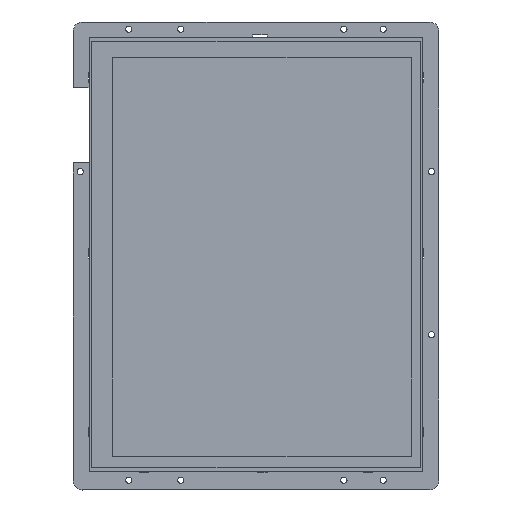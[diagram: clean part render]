
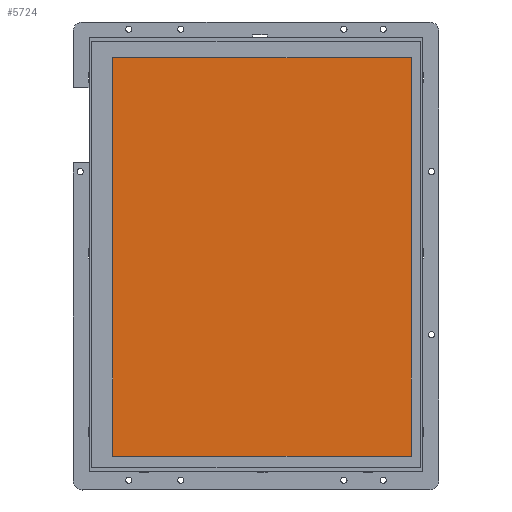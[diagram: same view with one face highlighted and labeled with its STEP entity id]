
A CAD part, top view. The second image highlights one B-rep face of the part: STEP entity #5724.
In plain terms, the highlighted planar face has unit normal (0, 0, 1).
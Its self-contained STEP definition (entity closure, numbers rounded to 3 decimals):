
#1793=DIRECTION('',(0.,-1.,0.));
#1794=VECTOR('',#1793,211.);
#1795=CARTESIAN_POINT('',(-75.96,104.339,11.35));
#1796=LINE('',#1795,#1794);
#1797=DIRECTION('',(-1.,0.,0.));
#1798=VECTOR('',#1797,158.2);
#1799=CARTESIAN_POINT('',(82.241,104.339,11.35));
#1800=LINE('',#1799,#1798);
#1801=DIRECTION('',(0.,1.,0.));
#1802=VECTOR('',#1801,211.);
#1803=CARTESIAN_POINT('',(82.241,-106.661,11.35));
#1804=LINE('',#1803,#1802);
#1805=DIRECTION('',(1.,0.,0.));
#1806=VECTOR('',#1805,158.2);
#1807=CARTESIAN_POINT('',(-75.96,-106.661,11.35));
#1808=LINE('',#1807,#1806);
#3101=CARTESIAN_POINT('',(-75.96,104.339,11.35));
#3102=CARTESIAN_POINT('',(-75.96,-106.661,11.35));
#3103=VERTEX_POINT('',#3101);
#3104=VERTEX_POINT('',#3102);
#3105=CARTESIAN_POINT('',(82.241,-106.661,11.35));
#3106=VERTEX_POINT('',#3105);
#3107=CARTESIAN_POINT('',(82.241,104.339,11.35));
#3108=VERTEX_POINT('',#3107);
#5713=CARTESIAN_POINT('',(3.141,-1.161,11.35));
#5714=DIRECTION('',(0.,0.,1.));
#5715=DIRECTION('',(-1.,0.,0.));
#5716=AXIS2_PLACEMENT_3D('',#5713,#5714,#5715);
#5717=PLANE('',#5716);
#5718=ORIENTED_EDGE('',*,*,#5665,.F.);
#5719=ORIENTED_EDGE('',*,*,#5680,.F.);
#5720=ORIENTED_EDGE('',*,*,#5694,.F.);
#5721=ORIENTED_EDGE('',*,*,#5707,.F.);
#5722=EDGE_LOOP('',(#5718,#5719,#5720,#5721));
#5723=FACE_OUTER_BOUND('',#5722,.F.);
#5665=EDGE_CURVE('',#3103,#3104,#1796,.T.);
#5680=EDGE_CURVE('',#3108,#3103,#1800,.T.);
#5694=EDGE_CURVE('',#3106,#3108,#1804,.T.);
#5707=EDGE_CURVE('',#3104,#3106,#1808,.T.);
#5724=ADVANCED_FACE('',(#5723),#5717,.T.);
